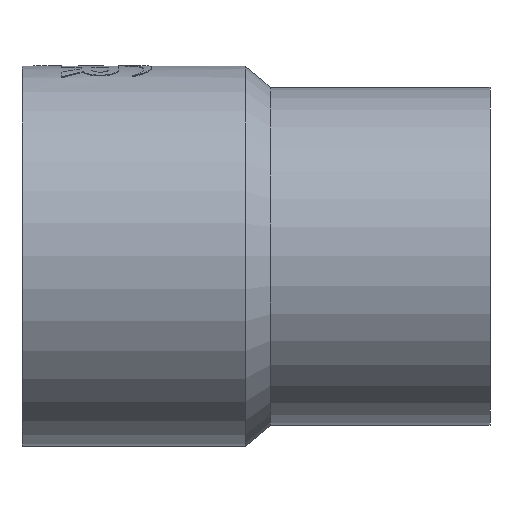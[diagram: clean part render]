
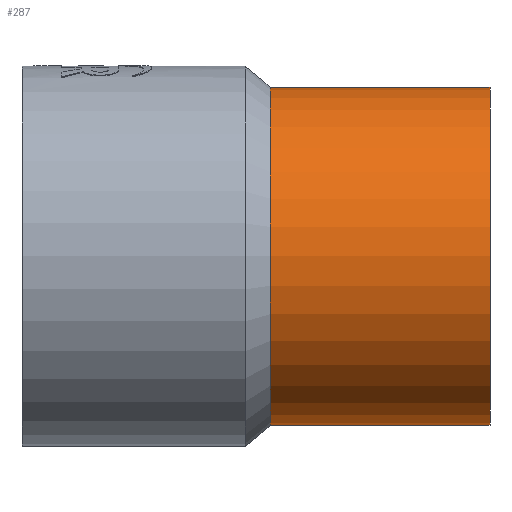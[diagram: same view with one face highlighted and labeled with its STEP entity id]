
A CAD part, front view. The second image highlights one B-rep face of the part: STEP entity #287.
In plain terms, the highlighted cylindrical face has radius 100 mm (diameter 200 mm), a partial arc.
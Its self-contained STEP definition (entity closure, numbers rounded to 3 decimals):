
#287 = ADVANCED_FACE ( 'NONE', ( #2643 ), #2153, .T. ) ;
#331 = VERTEX_POINT ( 'NONE', #1718 ) ;
#422 = ORIENTED_EDGE ( 'NONE', *, *, #2089, .T. ) ;
#451 = ORIENTED_EDGE ( 'NONE', *, *, #3400, .F. ) ;
#753 = VERTEX_POINT ( 'NONE', #2343 ) ;
#960 = DIRECTION ( 'NONE',  ( 0., 0., 1. ) ) ;
#975 = DIRECTION ( 'NONE',  ( -1., 0., 0. ) ) ;
#992 = CARTESIAN_POINT ( 'NONE',  ( 277., 0., 0. ) ) ;
#1205 = AXIS2_PLACEMENT_3D ( 'NONE', #3440, #2171, #2114 ) ;
#1217 = DIRECTION ( 'NONE',  ( 0., 0., 1. ) ) ;
#1231 = DIRECTION ( 'NONE',  ( -1., 0., 0. ) ) ;
#1245 = CARTESIAN_POINT ( 'NONE',  ( 147., 0., 0. ) ) ;
#1294 = CIRCLE ( 'NONE', #2523, 100. ) ;
#1584 = VERTEX_POINT ( 'NONE', #2109 ) ;
#1718 = CARTESIAN_POINT ( 'NONE',  ( 147., 0., 100. ) ) ;
#1979 = VERTEX_POINT ( 'NONE', #2617 ) ;
#2048 = EDGE_CURVE ( 'NONE', #753, #1979, #3059, .T. ) ;
#2089 = EDGE_CURVE ( 'NONE', #1584, #331, #2976, .T. ) ;
#2109 = CARTESIAN_POINT ( 'NONE',  ( 277., 0., 100. ) ) ;
#2114 = DIRECTION ( 'NONE',  ( 0., 0., 1. ) ) ;
#2153 = CYLINDRICAL_SURFACE ( 'NONE', #1205, 100. ) ;
#2171 = DIRECTION ( 'NONE',  ( -1., 0., 0. ) ) ;
#2207 = ORIENTED_EDGE ( 'NONE', *, *, #3407, .T. ) ;
#2298 = VECTOR ( 'NONE', #2545, 1000. ) ;
#2316 = CARTESIAN_POINT ( 'NONE',  ( -0.3, 0., 100. ) ) ;
#2343 = CARTESIAN_POINT ( 'NONE',  ( 277., 0., -100. ) ) ;
#2380 = DIRECTION ( 'NONE',  ( -1., 0., 0. ) ) ;
#2410 = CARTESIAN_POINT ( 'NONE',  ( -0.3, 0., -100. ) ) ;
#2523 = AXIS2_PLACEMENT_3D ( 'NONE', #992, #975, #960 ) ;
#2528 = AXIS2_PLACEMENT_3D ( 'NONE', #1245, #1231, #1217 ) ;
#2545 = DIRECTION ( 'NONE',  ( -1., 0., 0. ) ) ;
#2617 = CARTESIAN_POINT ( 'NONE',  ( 147., 0., -100. ) ) ;
#2643 = FACE_OUTER_BOUND ( 'NONE', #3018, .T. ) ;
#2825 = ORIENTED_EDGE ( 'NONE', *, *, #2048, .F. ) ;
#2866 = CIRCLE ( 'NONE', #2528, 100. ) ;
#2933 = VECTOR ( 'NONE', #2380, 1000. ) ;
#2976 = LINE ( 'NONE', #2316, #2298 ) ;
#3018 = EDGE_LOOP ( 'NONE', ( #2825, #2207, #422, #451 ) ) ;
#3059 = LINE ( 'NONE', #2410, #2933 ) ;
#3400 = EDGE_CURVE ( 'NONE', #1979, #331, #2866, .T. ) ;
#3407 = EDGE_CURVE ( 'NONE', #753, #1584, #1294, .T. ) ;
#3440 = CARTESIAN_POINT ( 'NONE',  ( -0.3, 0., 0. ) ) ;
